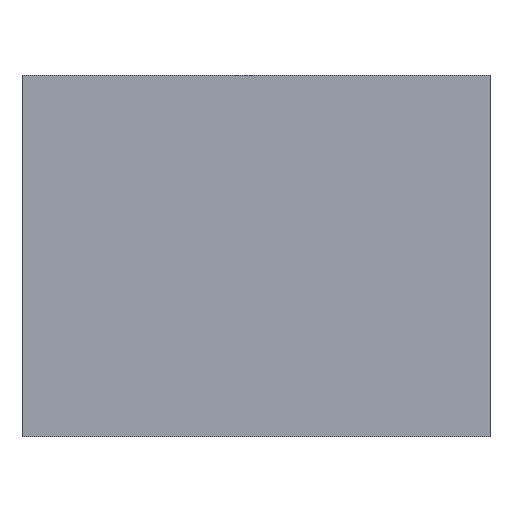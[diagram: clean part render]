
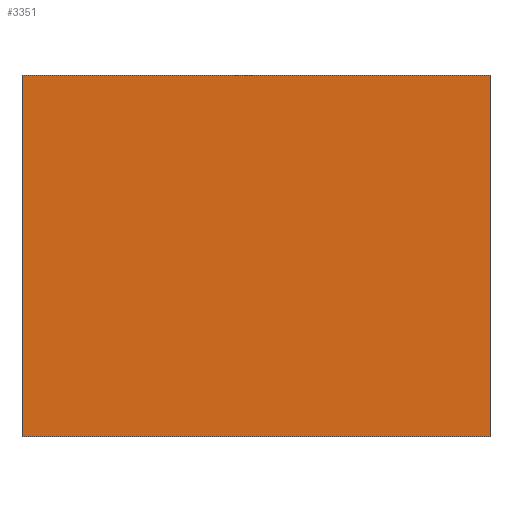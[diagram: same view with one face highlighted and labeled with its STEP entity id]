
A CAD part, top view. The second image highlights one B-rep face of the part: STEP entity #3351.
In plain terms, the highlighted planar face has unit normal (0, 0, 1).
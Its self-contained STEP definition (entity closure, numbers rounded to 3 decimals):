
#3215=CARTESIAN_POINT('Vertex',(110.,85.,40.)) ;
#3229=CARTESIAN_POINT('Vertex',(-110.,85.,40.)) ;
#3232=CARTESIAN_POINT('Line Origine',(0.,85.,40.)) ;
#3260=CARTESIAN_POINT('Vertex',(-110.,-85.,40.)) ;
#3263=CARTESIAN_POINT('Line Origine',(-110.,0.,40.)) ;
#3291=CARTESIAN_POINT('Vertex',(110.,-85.,40.)) ;
#3294=CARTESIAN_POINT('Line Origine',(0.,-85.,40.)) ;
#3316=CARTESIAN_POINT('Line Origine',(110.,0.,40.)) ;
#3340=CARTESIAN_POINT('Axis2P3D Location',(0.,0.,40.)) ;
#3233=DIRECTION('Vector Direction',(1.,0.,0.)) ;
#3264=DIRECTION('Vector Direction',(0.,1.,0.)) ;
#3295=DIRECTION('Vector Direction',(-1.,0.,0.)) ;
#3317=DIRECTION('Vector Direction',(0.,-1.,0.)) ;
#3341=DIRECTION('Axis2P3D Direction',(0.,0.,1.)) ;
#3342=DIRECTION('Axis2P3D XDirection',(1.,0.,0.)) ;
#3343=AXIS2_PLACEMENT_3D('Plane Axis2P3D',#3340,#3341,#3342) ;
#3346=ORIENTED_EDGE('',*,*,#3236,.T.) ;
#3347=ORIENTED_EDGE('',*,*,#3267,.T.) ;
#3348=ORIENTED_EDGE('',*,*,#3298,.T.) ;
#3349=ORIENTED_EDGE('',*,*,#3320,.T.) ;
#3234=VECTOR('Line Direction',#3233,1.) ;
#3265=VECTOR('Line Direction',#3264,1.) ;
#3296=VECTOR('Line Direction',#3295,1.) ;
#3318=VECTOR('Line Direction',#3317,1.) ;
#3351=ADVANCED_FACE('cavity',(#3350),#3344,.T.) ;
#3236=EDGE_CURVE('',#3216,#3230,#3235,.F.) ;
#3267=EDGE_CURVE('',#3230,#3261,#3266,.F.) ;
#3298=EDGE_CURVE('',#3261,#3292,#3297,.F.) ;
#3320=EDGE_CURVE('',#3292,#3216,#3319,.F.) ;
#3345=EDGE_LOOP('',(#3346,#3347,#3348,#3349)) ;
#3350=FACE_OUTER_BOUND('',#3345,.T.) ;
#3235=LINE('Line',#3232,#3234) ;
#3266=LINE('Line',#3263,#3265) ;
#3297=LINE('Line',#3294,#3296) ;
#3319=LINE('Line',#3316,#3318) ;
#3344=PLANE('Plane',#3343) ;
#3216=VERTEX_POINT('',#3215) ;
#3230=VERTEX_POINT('',#3229) ;
#3261=VERTEX_POINT('',#3260) ;
#3292=VERTEX_POINT('',#3291) ;
